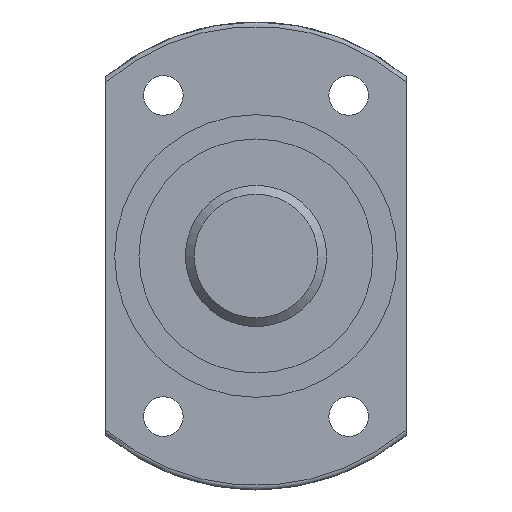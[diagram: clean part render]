
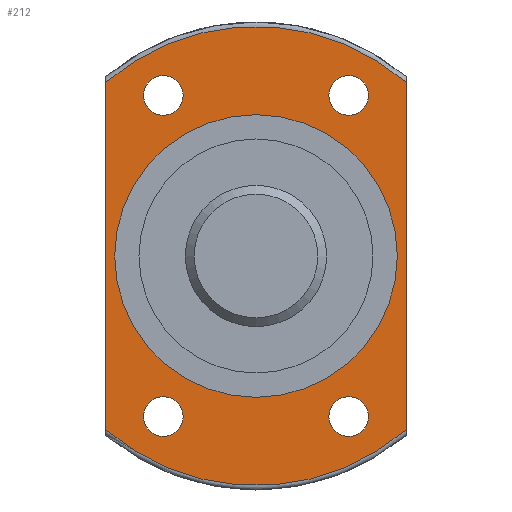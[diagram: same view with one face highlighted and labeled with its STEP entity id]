
A CAD part, left-side view. The second image highlights one B-rep face of the part: STEP entity #212.
In plain terms, the highlighted planar face has unit normal (-1, 0, 0).
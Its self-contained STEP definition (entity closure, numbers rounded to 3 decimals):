
#101=LINE('',#1398,#109);
#102=LINE('',#1399,#110);
#109=VECTOR('',#1074,1.);
#110=VECTOR('',#1075,1.);
#212=ADVANCED_FACE('',(#319,#320,#321,#322,#323,#324),#238,.F.);
#238=PLANE('',#861);
#319=FACE_BOUND('',#419,.T.);
#320=FACE_BOUND('',#420,.T.);
#321=FACE_BOUND('',#421,.T.);
#322=FACE_BOUND('',#422,.T.);
#323=FACE_BOUND('',#423,.T.);
#324=FACE_BOUND('',#424,.T.);
#419=EDGE_LOOP('',(#542));
#420=EDGE_LOOP('',(#543));
#421=EDGE_LOOP('',(#544));
#422=EDGE_LOOP('',(#545));
#423=EDGE_LOOP('',(#546));
#424=EDGE_LOOP('',(#547,#548,#549,#550));
#542=ORIENTED_EDGE('',*,*,#658,.F.);
#543=ORIENTED_EDGE('',*,*,#701,.T.);
#544=ORIENTED_EDGE('',*,*,#702,.T.);
#545=ORIENTED_EDGE('',*,*,#703,.T.);
#546=ORIENTED_EDGE('',*,*,#704,.T.);
#547=ORIENTED_EDGE('',*,*,#699,.T.);
#548=ORIENTED_EDGE('',*,*,#705,.T.);
#549=ORIENTED_EDGE('',*,*,#683,.T.);
#550=ORIENTED_EDGE('',*,*,#706,.F.);
#596=VERTEX_POINT('',#1155);
#621=VERTEX_POINT('',#1260);
#622=VERTEX_POINT('',#1261);
#631=VERTEX_POINT('',#1367);
#632=VERTEX_POINT('',#1369);
#633=VERTEX_POINT('',#1391);
#634=VERTEX_POINT('',#1393);
#635=VERTEX_POINT('',#1395);
#636=VERTEX_POINT('',#1397);
#658=EDGE_CURVE('',#596,#596,#728,.T.);
#683=EDGE_CURVE('',#621,#622,#749,.T.);
#699=EDGE_CURVE('',#632,#631,#756,.T.);
#701=EDGE_CURVE('',#633,#633,#757,.T.);
#702=EDGE_CURVE('',#634,#634,#758,.T.);
#703=EDGE_CURVE('',#635,#635,#759,.T.);
#704=EDGE_CURVE('',#636,#636,#760,.T.);
#705=EDGE_CURVE('',#631,#621,#101,.T.);
#706=EDGE_CURVE('',#632,#622,#102,.T.);
#728=CIRCLE('',#804,16.);
#749=CIRCLE('',#844,26.);
#756=CIRCLE('',#855,26.);
#757=CIRCLE('',#857,2.25);
#758=CIRCLE('',#858,2.25);
#759=CIRCLE('',#859,2.25);
#760=CIRCLE('',#860,2.25);
#804=AXIS2_PLACEMENT_3D('',#1154,#954,#955);
#844=AXIS2_PLACEMENT_3D('',#1259,#1036,#1037);
#855=AXIS2_PLACEMENT_3D('',#1368,#1062,#1063);
#857=AXIS2_PLACEMENT_3D('',#1390,#1066,#1067);
#858=AXIS2_PLACEMENT_3D('',#1392,#1068,#1069);
#859=AXIS2_PLACEMENT_3D('',#1394,#1070,#1071);
#860=AXIS2_PLACEMENT_3D('',#1396,#1072,#1073);
#861=AXIS2_PLACEMENT_3D('',#1400,#1076,#1077);
#954=DIRECTION('',(-1.,0.,0.));
#955=DIRECTION('',(0.,0.,-1.));
#1036=DIRECTION('',(-1.,0.,0.));
#1037=DIRECTION('',(0.,0.,1.));
#1062=DIRECTION('',(-1.,0.,0.));
#1063=DIRECTION('',(0.,0.,1.));
#1066=DIRECTION('',(1.,0.,0.));
#1067=DIRECTION('',(0.,0.,-1.));
#1068=DIRECTION('',(1.,0.,0.));
#1069=DIRECTION('',(0.,0.,-1.));
#1070=DIRECTION('',(1.,0.,0.));
#1071=DIRECTION('',(0.,0.,-1.));
#1072=DIRECTION('',(1.,0.,0.));
#1073=DIRECTION('',(0.,0.,-1.));
#1074=DIRECTION('',(0.,0.,-1.));
#1075=DIRECTION('',(0.,0.,-1.));
#1076=DIRECTION('',(1.,0.,0.));
#1077=DIRECTION('',(0.,0.,-1.));
#1154=CARTESIAN_POINT('',(-34.9,0.,0.));
#1155=CARTESIAN_POINT('',(-34.9,0.,-16.));
#1259=CARTESIAN_POINT('',(-34.9,0.,0.));
#1260=CARTESIAN_POINT('',(-34.9,17.,-19.672));
#1261=CARTESIAN_POINT('',(-34.9,-17.,-19.672));
#1367=CARTESIAN_POINT('',(-34.9,17.,19.672));
#1368=CARTESIAN_POINT('',(-34.9,0.,0.));
#1369=CARTESIAN_POINT('',(-34.9,-17.,19.672));
#1390=CARTESIAN_POINT('',(-34.9,10.5,-18.19));
#1391=CARTESIAN_POINT('',(-34.9,10.5,-20.44));
#1392=CARTESIAN_POINT('',(-34.9,-10.5,-18.19));
#1393=CARTESIAN_POINT('',(-34.9,-10.5,-20.44));
#1394=CARTESIAN_POINT('',(-34.9,-10.5,18.19));
#1395=CARTESIAN_POINT('',(-34.9,-10.5,15.94));
#1396=CARTESIAN_POINT('',(-34.9,10.5,18.19));
#1397=CARTESIAN_POINT('',(-34.9,10.5,15.94));
#1398=CARTESIAN_POINT('',(-34.9,17.,0.));
#1399=CARTESIAN_POINT('',(-34.9,-17.,0.));
#1400=CARTESIAN_POINT('',(-34.9,26.,0.));
